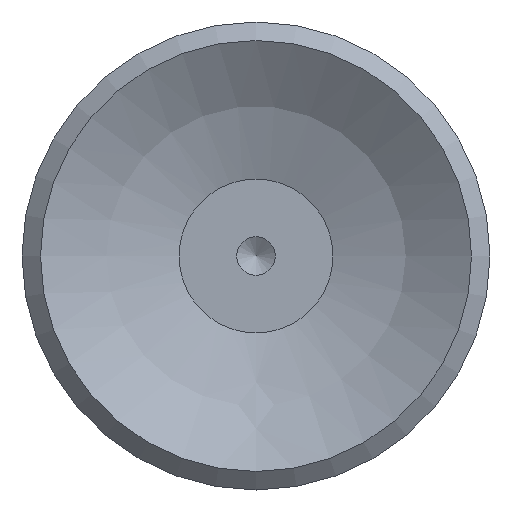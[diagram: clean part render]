
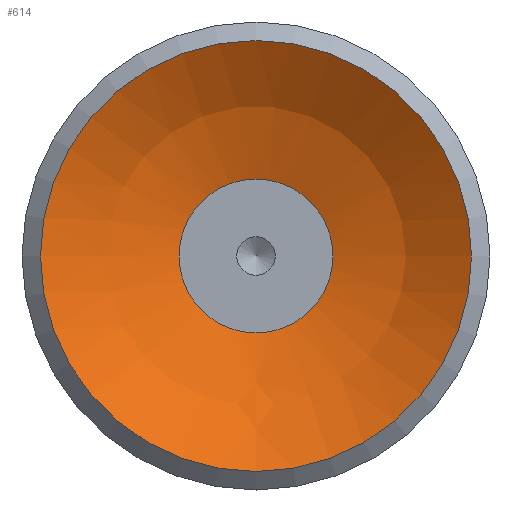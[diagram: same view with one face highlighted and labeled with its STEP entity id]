
A CAD part, front view. The second image highlights one B-rep face of the part: STEP entity #614.
In plain terms, the highlighted spherical face has radius 11.5 mm.
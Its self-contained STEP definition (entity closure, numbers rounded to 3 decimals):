
#614=ADVANCED_FACE('',(#1063,#1064),#1065,.F.);
#1063=FACE_OUTER_BOUND('',#1599,.T.);
#1064=FACE_OUTER_BOUND('',#1600,.T.);
#1065=SPHERICAL_SURFACE('',#1601,11.5);
#1599=EDGE_LOOP('',(#2878));
#1600=EDGE_LOOP('',(#2879));
#1601=AXIS2_PLACEMENT_3D('',#2880,#2881,#2882);
#2878=ORIENTED_EDGE('',*,*,#3690,.T.);
#2879=ORIENTED_EDGE('',*,*,#3661,.F.);
#2880=CARTESIAN_POINT('',(0.001,9.494,-22.735));
#2881=DIRECTION('',(0.0,0.,-1.0));
#2882=DIRECTION('',(1.0,0.0,0.0));
#3661=EDGE_CURVE('',#4358,#4358,#4359,.T.);
#3690=EDGE_CURVE('',#4411,#4411,#4412,.T.);
#4358=VERTEX_POINT('',#6199);
#4359=CIRCLE('',#6200,2.5);
#4411=VERTEX_POINT('',#6252);
#4412=CIRCLE('',#6253,7.0);
#6199=CARTESIAN_POINT('',(0.001,11.994,-11.51));
#6200=AXIS2_PLACEMENT_3D('',#6853,#6854,#6855);
#6252=CARTESIAN_POINT('',(0.001,16.494,-13.611));
#6253=AXIS2_PLACEMENT_3D('',#6940,#6941,#6942);
#6853=CARTESIAN_POINT('',(0.001,9.494,-11.51));
#6854=DIRECTION('',(0.0,0.,-1.0));
#6855=DIRECTION('',(0.0,1.0,0.));
#6940=CARTESIAN_POINT('',(0.001,9.494,-13.611));
#6941=DIRECTION('',(0.0,0.,-1.0));
#6942=DIRECTION('',(0.0,1.0,0.));
